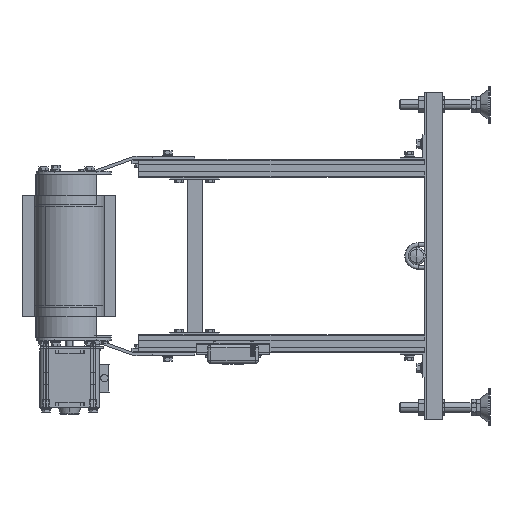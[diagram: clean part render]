
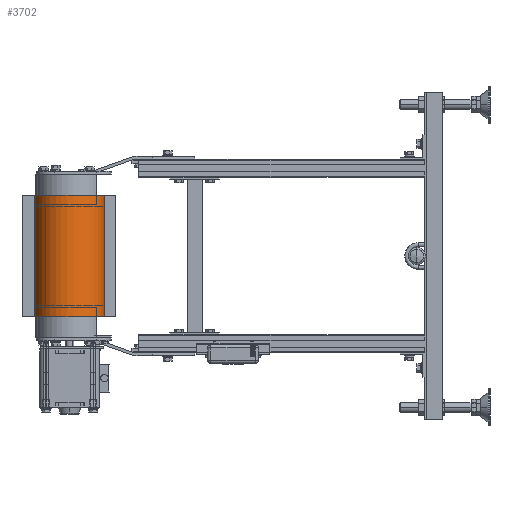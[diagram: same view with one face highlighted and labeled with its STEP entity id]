
A CAD part, left-side view. The second image highlights one B-rep face of the part: STEP entity #3702.
In plain terms, the highlighted cylindrical face has radius 58.35 mm (diameter 116.7 mm), a partial arc.
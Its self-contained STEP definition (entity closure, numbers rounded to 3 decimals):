
#3702=ADVANCED_FACE('',(#23949),#23948,.T.);
#23948=CYLINDRICAL_SURFACE('',#37160,58.35);
#23949=FACE_OUTER_BOUND('',#37161,.T.);
#37157=CARTESIAN_POINT('',(57.5,-56.,100.));
#37158=DIRECTION('',(0.,0.,1.));
#37159=DIRECTION('',(1.,-0.003,0.));
#37160=AXIS2_PLACEMENT_3D('',#37157,#37158,#37159);
#37161=EDGE_LOOP('',(#48007,#48008,#48009,#48010));
#48007=ORIENTED_EDGE('',*,*,#54063,.T.);
#48008=ORIENTED_EDGE('',*,*,#53941,.F.);
#48009=ORIENTED_EDGE('',*,*,#53878,.F.);
#48010=ORIENTED_EDGE('',*,*,#53835,.T.);
#53835=EDGE_CURVE('',#85838,#85831,#85839,.T.);
#53878=EDGE_CURVE('',#85838,#86138,#86139,.T.);
#53941=EDGE_CURVE('',#86138,#86575,#86576,.T.);
#54063=EDGE_CURVE('',#85831,#86575,#87386,.T.);
#85831=VERTEX_POINT('',#109289);
#85838=VERTEX_POINT('',#109293);
#85839=LINE('',#109294,#109295);
#86138=VERTEX_POINT('',#109465);
#86139=CIRCLE('',#109469,58.35);
#86575=VERTEX_POINT('',#109716);
#86576=LINE('',#109717,#109718);
#87386=CIRCLE('',#110167,58.35);
#109289=CARTESIAN_POINT('',(57.497,2.35,-100.));
#109293=CARTESIAN_POINT('',(57.497,2.35,100.));
#109294=CARTESIAN_POINT('',(57.497,2.35,100.));
#109295=VECTOR('',#109296,200.);
#109296=DIRECTION('',(0.,0.,-1.));
#109465=CARTESIAN_POINT('',(58.818,-114.335,100.));
#109466=CARTESIAN_POINT('',(57.5,-56.,100.));
#109467=DIRECTION('',(0.,0.,1.));
#109468=DIRECTION('',(0.,1.,0.));
#109469=AXIS2_PLACEMENT_3D('',#109466,#109467,#109468);
#109716=CARTESIAN_POINT('',(58.818,-114.335,-100.));
#109717=CARTESIAN_POINT('',(58.818,-114.335,100.));
#109718=VECTOR('',#109719,200.);
#109719=DIRECTION('',(0.,0.,-1.));
#110164=CARTESIAN_POINT('',(57.5,-56.,-100.));
#110165=DIRECTION('',(0.,0.,1.));
#110166=DIRECTION('',(0.,1.,0.));
#110167=AXIS2_PLACEMENT_3D('',#110164,#110165,#110166);
